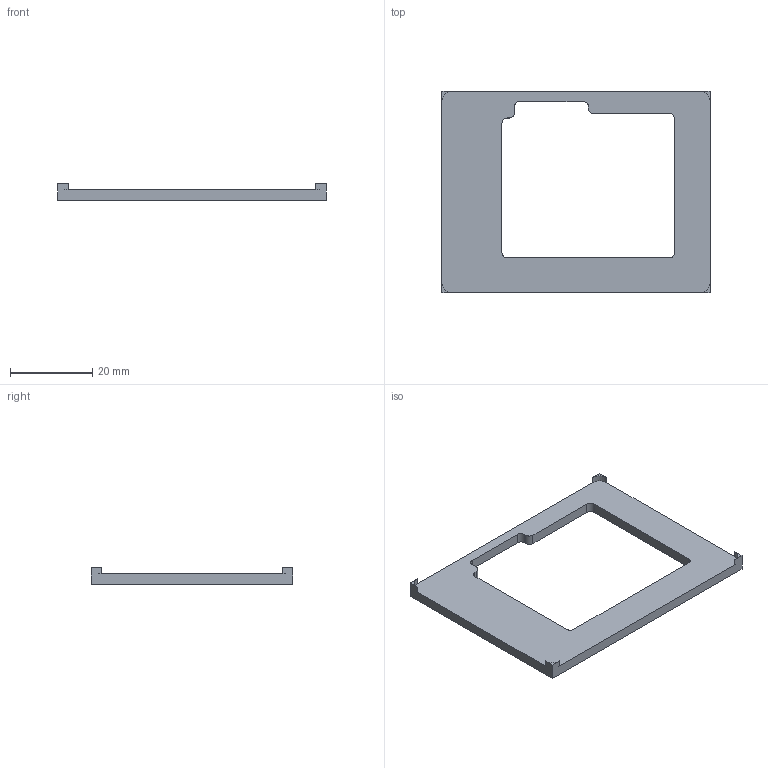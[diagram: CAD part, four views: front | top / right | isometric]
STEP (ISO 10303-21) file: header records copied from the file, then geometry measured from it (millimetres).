
FILE_DESCRIPTION(('Open CASCADE Model'),'2;1');
FILE_NAME('Open CASCADE Shape Model','2026-05-31T19:44:31',('Author'),( 'Open CASCADE'),'Open CASCADE STEP processor 7.6','Open CASCADE 7.6' ,'Unknown');
FILE_SCHEMA(('AP242_MANAGED_MODEL_BASED_3D_ENGINEERING_MIM_LF. {1 0 10303 442 1 1 4 }'));
Length unit declared in the file: millimetre
Products named in the file (1): Open CASCADE STEP translator 7.6 13
Bounding box: 65.2 x 49 x 4 mm (x, y, z)
Volume: 4193.2 mm3; surface area: 4361.9 mm2
Topology: 1 solids, 1 shells, 30 faces, 84 edges, 56 vertices
Faces by surface type: plane 18, cylinder 12
Entity records: 2078 total; most frequent: CARTESIAN_POINT 339, DIRECTION 338, LINE 204, VECTOR 204, ORIENTED_EDGE 168, PCURVE 168, DEFINITIONAL_REPRESENTATION 168, EDGE_CURVE 84
